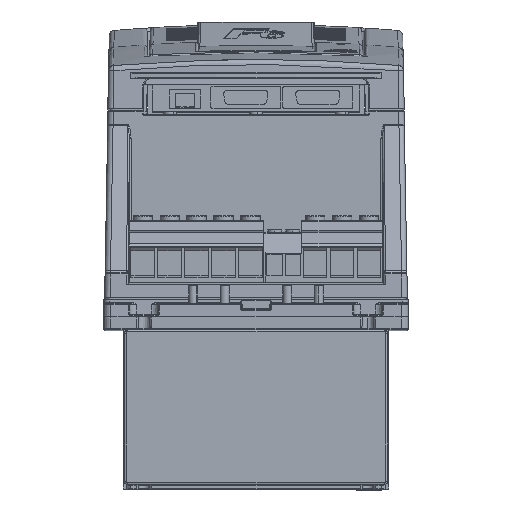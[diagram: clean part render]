
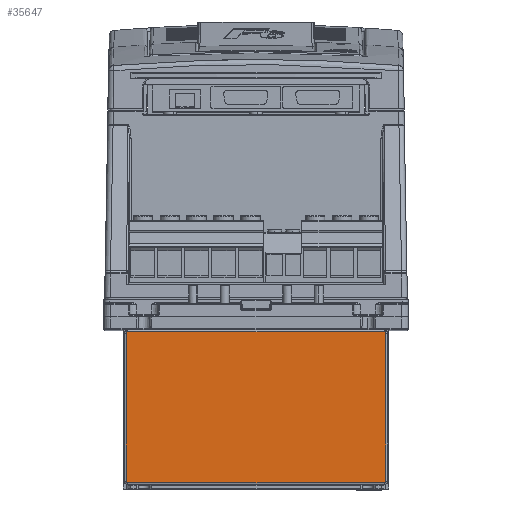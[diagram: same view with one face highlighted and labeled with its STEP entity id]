
A CAD part, top view. The second image highlights one B-rep face of the part: STEP entity #35647.
In plain terms, the highlighted planar face has unit normal (0, 0, 1).
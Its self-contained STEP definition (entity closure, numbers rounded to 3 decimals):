
#104 = PLANE ( 'NONE',  #71272 ) ;
#406 = CARTESIAN_POINT ( 'NONE',  ( -72.5, -87.15, 60. ) ) ;
#2716 = VERTEX_POINT ( 'NONE', #41381 ) ;
#3095 = LINE ( 'NONE', #53749, #81331 ) ;
#4683 = DIRECTION ( 'NONE',  ( 0., 0., 1. ) ) ;
#5118 = CIRCLE ( 'NONE', #55486, 1. ) ;
#5993 = CARTESIAN_POINT ( 'NONE',  ( 0., -88.15, 60. ) ) ;
#6408 = CARTESIAN_POINT ( 'NONE',  ( 71.5, -87.15, 60. ) ) ;
#7733 = CARTESIAN_POINT ( 'NONE',  ( -71.5, -88.15, 60. ) ) ;
#10081 = EDGE_CURVE ( 'NONE', #2716, #37927, #39738, .T. ) ;
#12172 = CARTESIAN_POINT ( 'NONE',  ( 0., -45.9, 60. ) ) ;
#12494 = LINE ( 'NONE', #68947, #72238 ) ;
#17872 = DIRECTION ( 'NONE',  ( 0., 0., 1. ) ) ;
#22712 = CARTESIAN_POINT ( 'NONE',  ( -72.5, -4.65, 60. ) ) ;
#23665 = CIRCLE ( 'NONE', #51452, 1. ) ;
#23921 = CARTESIAN_POINT ( 'NONE',  ( -71.5, -3.65, 60. ) ) ;
#24848 = DIRECTION ( 'NONE',  ( 0., 0., 1. ) ) ;
#28617 = AXIS2_PLACEMENT_3D ( 'NONE', #29460, #17872, #55602 ) ;
#28692 = ORIENTED_EDGE ( 'NONE', *, *, #54831, .T. ) ;
#29460 = CARTESIAN_POINT ( 'NONE',  ( 71.5, -4.65, 60. ) ) ;
#30007 = DIRECTION ( 'NONE',  ( 1., 0., 0. ) ) ;
#31011 = EDGE_CURVE ( 'NONE', #69556, #36510, #23665, .T. ) ;
#31638 = FACE_OUTER_BOUND ( 'NONE', #42532, .T. ) ;
#32018 = ORIENTED_EDGE ( 'NONE', *, *, #51538, .T. ) ;
#33004 = EDGE_CURVE ( 'NONE', #51274, #69556, #59296, .T. ) ;
#33768 = DIRECTION ( 'NONE',  ( 0., 0., 1. ) ) ;
#33804 = ORIENTED_EDGE ( 'NONE', *, *, #57641, .T. ) ;
#34174 = VERTEX_POINT ( 'NONE', #52180 ) ;
#34468 = VERTEX_POINT ( 'NONE', #23921 ) ;
#35647 = ADVANCED_FACE ( 'NONE', ( #31638 ), #104, .T. ) ;
#35776 = VECTOR ( 'NONE', #48050, 1000. ) ;
#36198 = ORIENTED_EDGE ( 'NONE', *, *, #10081, .T. ) ;
#36374 = CARTESIAN_POINT ( 'NONE',  ( 71.5, -3.65, 60. ) ) ;
#36510 = VERTEX_POINT ( 'NONE', #7733 ) ;
#37117 = LINE ( 'NONE', #5993, #37964 ) ;
#37927 = VERTEX_POINT ( 'NONE', #55436 ) ;
#37964 = VECTOR ( 'NONE', #74080, 1000. ) ;
#39738 = CIRCLE ( 'NONE', #47716, 1. ) ;
#41381 = CARTESIAN_POINT ( 'NONE',  ( 71.5, -88.15, 60. ) ) ;
#42532 = EDGE_LOOP ( 'NONE', ( #32018, #70233, #28692, #33804, #81957, #48398, #61470, #36198 ) ) ;
#45495 = DIRECTION ( 'NONE',  ( 1., 0., 0. ) ) ;
#47716 = AXIS2_PLACEMENT_3D ( 'NONE', #6408, #57050, #76178 ) ;
#48050 = DIRECTION ( 'NONE',  ( 0., -1., 0. ) ) ;
#48398 = ORIENTED_EDGE ( 'NONE', *, *, #31011, .T. ) ;
#49417 = DIRECTION ( 'NONE',  ( -1., 0., 0. ) ) ;
#51274 = VERTEX_POINT ( 'NONE', #22712 ) ;
#51452 = AXIS2_PLACEMENT_3D ( 'NONE', #56372, #24848, #45495 ) ;
#51538 = EDGE_CURVE ( 'NONE', #37927, #34174, #3095, .T. ) ;
#52180 = CARTESIAN_POINT ( 'NONE',  ( 72.5, -4.65, 60. ) ) ;
#52875 = DIRECTION ( 'NONE',  ( 1., 0., 0. ) ) ;
#53749 = CARTESIAN_POINT ( 'NONE',  ( 72.5, -45.9, 60. ) ) ;
#54831 = EDGE_CURVE ( 'NONE', #60949, #34468, #12494, .T. ) ;
#55436 = CARTESIAN_POINT ( 'NONE',  ( 72.5, -87.15, 60. ) ) ;
#55486 = AXIS2_PLACEMENT_3D ( 'NONE', #79025, #33768, #52875 ) ;
#55602 = DIRECTION ( 'NONE',  ( 1., 0., 0. ) ) ;
#56372 = CARTESIAN_POINT ( 'NONE',  ( -71.5, -87.15, 60. ) ) ;
#57050 = DIRECTION ( 'NONE',  ( 0., 0., 1. ) ) ;
#57641 = EDGE_CURVE ( 'NONE', #34468, #51274, #5118, .T. ) ;
#59296 = LINE ( 'NONE', #72579, #35776 ) ;
#60949 = VERTEX_POINT ( 'NONE', #36374 ) ;
#61470 = ORIENTED_EDGE ( 'NONE', *, *, #79433, .T. ) ;
#64408 = CIRCLE ( 'NONE', #28617, 1. ) ;
#66507 = EDGE_CURVE ( 'NONE', #34174, #60949, #64408, .T. ) ;
#68947 = CARTESIAN_POINT ( 'NONE',  ( 0., -3.65, 60. ) ) ;
#69556 = VERTEX_POINT ( 'NONE', #406 ) ;
#70233 = ORIENTED_EDGE ( 'NONE', *, *, #66507, .T. ) ;
#71272 = AXIS2_PLACEMENT_3D ( 'NONE', #12172, #4683, #30007 ) ;
#72238 = VECTOR ( 'NONE', #49417, 1000. ) ;
#72579 = CARTESIAN_POINT ( 'NONE',  ( -72.5, -45.9, 60. ) ) ;
#74080 = DIRECTION ( 'NONE',  ( 1., 0., 0. ) ) ;
#76178 = DIRECTION ( 'NONE',  ( 1., 0., 0. ) ) ;
#79025 = CARTESIAN_POINT ( 'NONE',  ( -71.5, -4.65, 60. ) ) ;
#79066 = DIRECTION ( 'NONE',  ( 0., 1., 0. ) ) ;
#79433 = EDGE_CURVE ( 'NONE', #36510, #2716, #37117, .T. ) ;
#81331 = VECTOR ( 'NONE', #79066, 1000. ) ;
#81957 = ORIENTED_EDGE ( 'NONE', *, *, #33004, .T. ) ;
